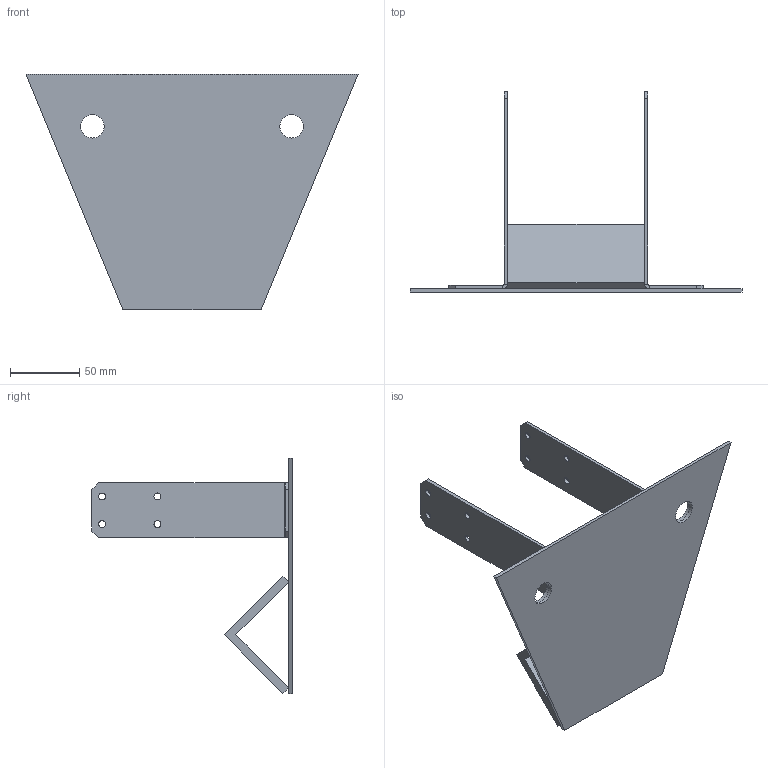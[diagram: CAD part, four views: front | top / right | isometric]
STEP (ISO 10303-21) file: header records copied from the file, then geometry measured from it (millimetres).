
FILE_DESCRIPTION (( 'STEP AP203' ), '1' );
FILE_NAME ('21102.STEP', '2020-05-22T11:37:46', ( '' ), ( '' ), 'SwSTEP 2.0', 'SolidWorks 2013', '' );
FILE_SCHEMA (( 'CONFIG_CONTROL_DESIGN' ));
Length unit declared in the file: millimetre
Products named in the file (4): PLWESF100; STSF40X175; PLSFB100; 21102
Assembly tree (4 placements, depth 2):
  21102
    PLSFB100
    PLWESF100
    STSF40X175  x2
Bounding box: 240 x 144.96 x 170 mm (x, y, z)
Volume: 174051.7 mm3; surface area: 114663.9 mm2
Topology: 4 solids, 4 shells, 74 faces, 182 edges, 116 vertices
Faces by surface type: plane 46, cylinder 28
Entity records: 1818 total; most frequent: DIRECTION 250, CARTESIAN_POINT 237, ORIENTED_EDGE 224, EDGE_CURVE 112, AXIS2_PLACEMENT_3D 85, LINE 80, VECTOR 80, VERTEX_POINT 72
